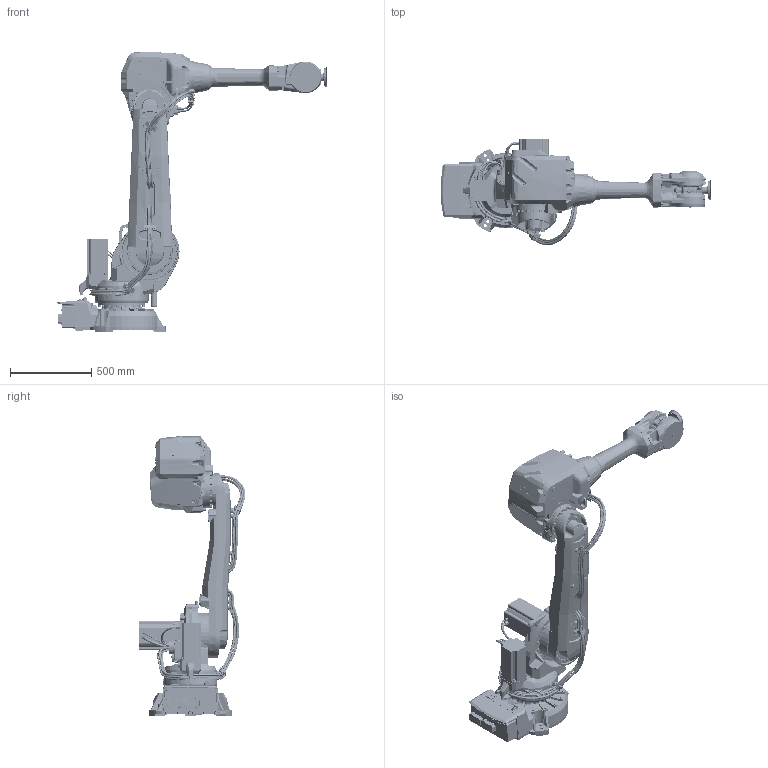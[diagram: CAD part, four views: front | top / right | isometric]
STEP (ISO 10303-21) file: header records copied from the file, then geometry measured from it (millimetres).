
FILE_DESCRIPTION(/* description */ (''),/* implementation_level */ '2;1');
FILE_NAME(/* name */ 'E:\组装完成的图纸\IRB 4600\IRB 4600-60-2.05\IRB 4600-60-2.05.stp',/* time_stamp */ '2023-11-04T14:34:16+08:00',/* author */ ('Administrator'),/* organization */ (''),/* preprocessor_version */ 'ST-DEVELOPER v16.5',/* originating_system */ 'Autodesk Inventor 2017',/* authorisation */ '');
FILE_SCHEMA (('AUTOMOTIVE_DESIGN { 1 0 10303 214 3 1 1 }'));
Products named in the file (11): 部件1; IRB4600_60kg-205_BASE_CAD_rev04; IRB4600_60kg-205_CABLES_LINK1_rev03; IRB4600_60kg-205_CABLES_LINK2_rev03; IRB4600_60kg-205_CABLES_LINK3_rev03; IRB4600_60kg-205_LINK1_CAD_rev04; IRB4600_60kg-205_LINK2_CAD_rev04; IRB4600_60kg-205_LINK3_CAD_rev04; IRB4600_60kg-205_LINK4_CAD_rev04; IRB4600_60kg-205_LINK5_CAD_rev04; IRB4600_60kg-205_LINK6_CAD_rev04
Assembly tree (10 placements, depth 2):
  部件1
    IRB4600_60kg-205_BASE_CAD_rev04
    IRB4600_60kg-205_CABLES_LINK1_rev03
    IRB4600_60kg-205_CABLES_LINK2_rev03
    IRB4600_60kg-205_CABLES_LINK3_rev03
    IRB4600_60kg-205_LINK1_CAD_rev04
    IRB4600_60kg-205_LINK2_CAD_rev04
    IRB4600_60kg-205_LINK3_CAD_rev04
    IRB4600_60kg-205_LINK4_CAD_rev04
    IRB4600_60kg-205_LINK5_CAD_rev04
    IRB4600_60kg-205_LINK6_CAD_rev04
Bounding box: 1670.97 x 659.11 x 1725.77 mm (x, y, z)
Volume: 155346689.6 mm3; surface area: 5481267.7 mm2
Topology: 10 solids, 12 shells, 4006 faces, 10166 edges, 6498 vertices
Faces by surface type: plane 1797, cylinder 834, bspline 787, cone 470, torus 92, sphere 26
Full cylindrical faces by diameter (mm): 5 x6, 5.263 x1, 5.5 x2, 6 x8, 6.8 x16, 6.9 x4, 6.959 x1, 7 x7, 7.1 x5, 7.5 x16, 8 x2, 8.3 x2, 8.5 x12, 9.5 x1, 10 x1, 10.2 x1, 10.22 x12, 10.5 x2, 11 x3, 11.9 x3, 12 x43, 13 x4, 13.3 x21, 15.551 x1, 15.665 x5, 16 x1, 16.27 x16, 16.3 x30, 17 x2, 18 x9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
Entity records: 194169 total; most frequent: CARTESIAN_POINT 103920, ORIENTED_EDGE 19066, DIRECTION 17447, EDGE_CURVE 9533, AXIS2_PLACEMENT_3D 6844, VERTEX_POINT 6373, EDGE_LOOP 4940, FACE_OUTER_BOUND 4006
